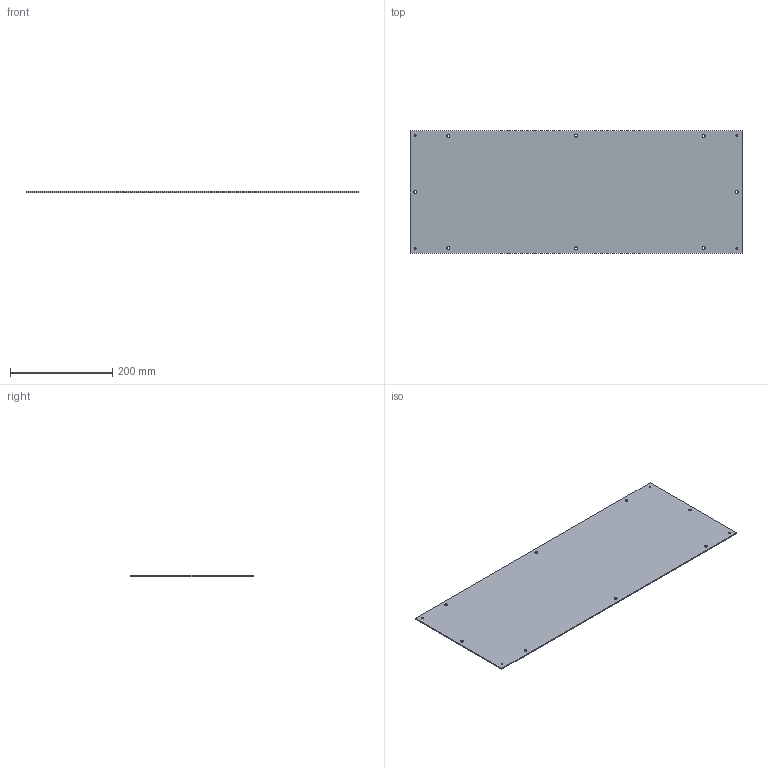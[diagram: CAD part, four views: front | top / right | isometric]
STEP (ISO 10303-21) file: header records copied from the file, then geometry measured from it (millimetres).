
FILE_DESCRIPTION(('CATIA V5 STEP Exchange'),'2;1');
FILE_NAME('D:\姚明阳\1、工装图纸\工作3、激光测距测试机箱\测试机箱\板材\Dimianban_V1.stp','2022-12-27T08:53:12+00:00',('none'),('none'),'CATIA Version 5 Release 21 GA (IN-10)','CATIA V5 STEP AP214','none');
FILE_SCHEMA(('AUTOMOTIVE_DESIGN { 1 0 10303 214 1 1 1 1 }'));
Length unit declared in the file: millimetre
Products named in the file (1): Dimianban
Bounding box: 650 x 240 x 2 mm (x, y, z)
Volume: 311542.9 mm3; surface area: 315467.3 mm2
Topology: 1 solids, 1 shells, 30 faces, 84 edges, 56 vertices
Faces by surface type: cylinder 24, plane 6
Entity records: 958 total; most frequent: ORIENTED_EDGE 168, CARTESIAN_POINT 159, DIRECTION 120, EDGE_CURVE 84, AXIS2_PLACEMENT_3D 67, VERTEX_POINT 56, EDGE_LOOP 54, CIRCLE 48
